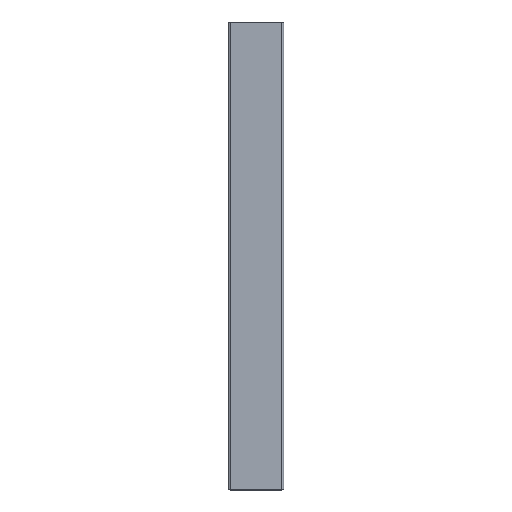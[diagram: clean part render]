
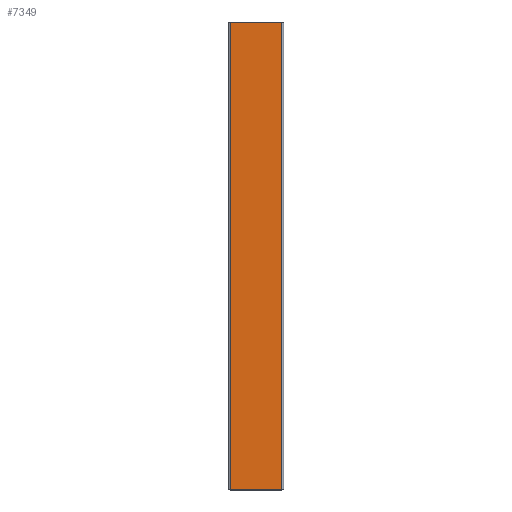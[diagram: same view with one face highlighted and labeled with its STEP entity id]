
A CAD part, top view. The second image highlights one B-rep face of the part: STEP entity #7349.
In plain terms, the highlighted planar face has unit normal (0, 0, 1).
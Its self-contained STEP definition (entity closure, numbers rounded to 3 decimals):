
#1431=DIRECTION('',(1.,0.,0.));
#1432=VECTOR('',#1431,64.5);
#1433=CARTESIAN_POINT('',(-32.25,590.,35.));
#1434=LINE('',#1433,#1432);
#1435=DIRECTION('',(0.,1.,0.));
#1436=VECTOR('',#1435,590.);
#1437=CARTESIAN_POINT('',(32.25,0.,35.));
#1438=LINE('',#1437,#1436);
#1484=DIRECTION('',(1.,0.,0.));
#1485=VECTOR('',#1484,64.5);
#1486=CARTESIAN_POINT('',(-32.25,0.,35.));
#1487=LINE('',#1486,#1485);
#1926=DIRECTION('',(0.,1.,0.));
#1927=VECTOR('',#1926,590.);
#1928=CARTESIAN_POINT('',(-32.25,0.,35.));
#1929=LINE('',#1928,#1927);
#4810=CARTESIAN_POINT('',(32.25,0.,35.));
#4811=VERTEX_POINT('',#4810);
#4812=CARTESIAN_POINT('',(-32.25,0.,35.));
#4814=VERTEX_POINT('',#4812);
#5409=CARTESIAN_POINT('',(32.25,590.,35.));
#5411=VERTEX_POINT('',#5409);
#5412=CARTESIAN_POINT('',(-32.25,590.,35.));
#5414=VERTEX_POINT('',#5412);
#7335=CARTESIAN_POINT('',(32.25,0.,35.));
#7336=DIRECTION('',(0.,0.,1.));
#7337=DIRECTION('',(-1.,0.,0.));
#7338=AXIS2_PLACEMENT_3D('',#7335,#7336,#7337);
#7339=PLANE('',#7338);
#7341=ORIENTED_EDGE('',*,*,#7340,.F.);
#7343=ORIENTED_EDGE('',*,*,#7342,.T.);
#7344=ORIENTED_EDGE('',*,*,#7299,.T.);
#7346=ORIENTED_EDGE('',*,*,#7345,.F.);
#7347=EDGE_LOOP('',(#7341,#7343,#7344,#7346));
#7348=FACE_OUTER_BOUND('',#7347,.F.);
#7299=EDGE_CURVE('',#5414,#5411,#1434,.T.);
#7340=EDGE_CURVE('',#4814,#4811,#1487,.T.);
#7342=EDGE_CURVE('',#4814,#5414,#1929,.T.);
#7345=EDGE_CURVE('',#4811,#5411,#1438,.T.);
#7349=ADVANCED_FACE('',(#7348),#7339,.T.);
